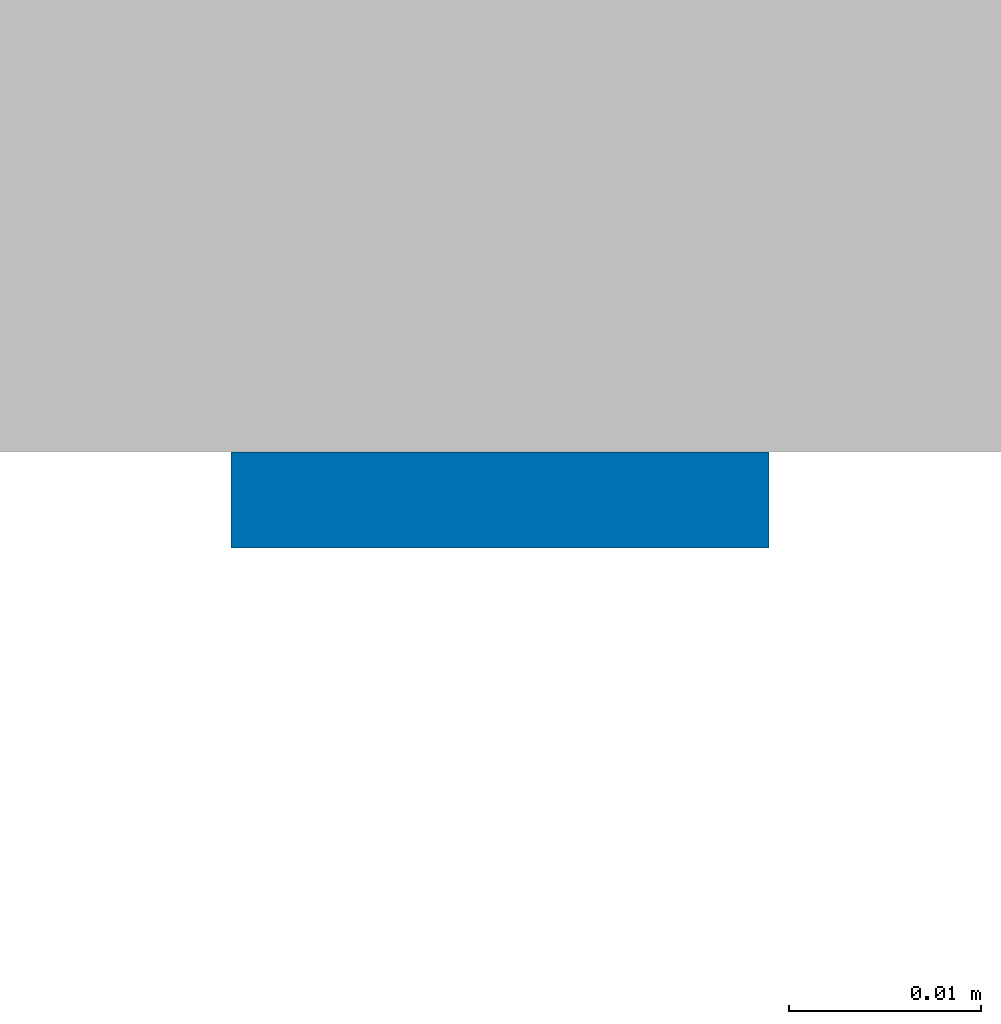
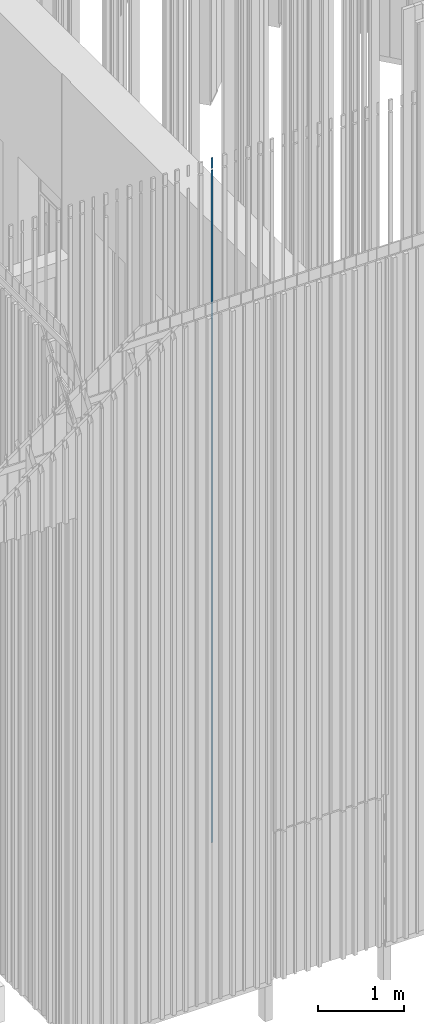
# One storey, part 165 of 390: 1 wall.
"""IFC2X3 building model written with IfcOpenShell, lengths in millimetres."""

from ifc_helpers import new_model, entity, si_unit, converted_unit, derived_unit, money_unit, direction, frame, origin_with_axes, place, context, subcontext, project, spatial, faceted_brep, material, material_list, type_object, element, save


model = new_model("IFC2X3")

# Units and contexts
model_context = context("Model", 3, precision=1e-05, world=origin_with_axes(), true_north=direction((0.0, 1.0)))
body_context = subcontext(model_context, "Body", "Model", "MODEL_VIEW")
ifc_project = project(units=[si_unit("LENGTHUNIT", "METRE", prefix="MILLI"), si_unit("AREAUNIT", "SQUARE_METRE"), si_unit("VOLUMEUNIT", "CUBIC_METRE"), converted_unit("PLANEANGLEUNIT", "DEGREE", entity("IfcPlaneAngleMeasure", 0.0174532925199), si_unit("PLANEANGLEUNIT", "RADIAN"), dimensions=[0, 0, 0, 0, 0, 0, 0]), si_unit("SOLIDANGLEUNIT", "STERADIAN"), money_unit("EUR"), converted_unit("TIMEUNIT", "Year", entity("IfcTimeMeasure", 31556926.0), si_unit("TIMEUNIT", "SECOND"), dimensions=[0, 0, 1, 0, 0, 0, 0]), si_unit("MASSUNIT", "GRAM", prefix="KILO"), si_unit("THERMODYNAMICTEMPERATUREUNIT", "DEGREE_CELSIUS"), si_unit("LUMINOUSINTENSITYUNIT", "LUMEN"), si_unit("ENERGYUNIT", "JOULE", prefix="MEGA"), derived_unit("THERMALCONDUCTANCEUNIT", [(si_unit("POWERUNIT", "WATT"), 1), (si_unit("LENGTHUNIT", "METRE"), -1), (si_unit("THERMODYNAMICTEMPERATUREUNIT", "KELVIN"), -1)]), derived_unit("SPECIFICHEATCAPACITYUNIT", [(si_unit("ENERGYUNIT", "JOULE"), 1), (si_unit("MASSUNIT", "GRAM", prefix="KILO"), -1), (si_unit("THERMODYNAMICTEMPERATUREUNIT", "KELVIN"), -1)]), derived_unit("MASSDENSITYUNIT", [(si_unit("MASSUNIT", "GRAM", prefix="KILO"), 1), (si_unit("VOLUMEUNIT", "CUBIC_METRE"), -1)])], contexts=[model_context])

# Site, building, storey
site_placement = place(None, origin_with_axes())
site = spatial("IfcSite", under=ifc_project, at=site_placement, Name="Site", CompositionType="ELEMENT")
building_placement = place(site_placement, origin_with_axes())
building = spatial("IfcBuilding", under=site, at=building_placement, Name="Building", CompositionType="ELEMENT")
storey_placement = place(building_placement, origin_with_axes())
storey = spatial("IfcBuildingStorey", under=building, at=storey_placement, Name="1 korrus", CompositionType="ELEMENT", Elevation=0.0)

# Wall
ifc_material = material(Name="Site specified")
ifc_material_list = material_list([ifc_material, ifc_material])
wall_type = type_object("IfcWallType", Name="Puitfassaadi ribistik", PredefinedType="NOTDEFINED")
wall_placement = place(storey_placement, frame((136344.000037, 45271.9999142, 100.000000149), z_axis=(0.0, 0.0, 1.0), x_axis=(-1.0, 0.0, 0.0)))
element("IfcWall", 1, at=wall_placement, inside=storey, type_object=wall_type, material=ifc_material_list, Name="Site specified", context=body_context, shape_type="Brep", body=[
    faceted_brep([(14.0, 9.0000021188, -3.12924797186e-06), (14.0, 8.99990580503, 9591.91725957), (-14.0, 8.99990580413, 9591.91725957), (-14.0, 9.00000211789, -3.12924797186e-06), (14.0, 14.0, 0.0), (14.0, 14.0, 9590.85445674), (-14.0, 14.0, 9590.85445674), (-14.0, 14.0, 0.0)], [[[0, 1, 2, 3]], [[4, 5, 1, 0]], [[5, 6, 2, 1]], [[3, 2, 6, 7]], [[0, 3, 7, 4]], [[7, 6, 5, 4]]]),
    faceted_brep([(-14.0, 14.0, 9764.99999985), (-14.0, 14.0, 9612.32360923), (-14.0, 8.99990580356, 9613.38641206), (-14.0, 8.99990580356, 9764.99999985), (14.0, 14.0, 9764.99999985), (14.0, 14.0, 9612.32360923), (14.0, 8.99990580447, 9613.38641206), (14.0, 8.99990580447, 9764.99999985)], [[[0, 1, 2, 3]], [[4, 5, 1, 0]], [[5, 6, 2, 1]], [[3, 2, 6, 7]], [[3, 7, 4, 0]], [[7, 6, 5, 4]]]),
])

save(model, "model.ifc")
